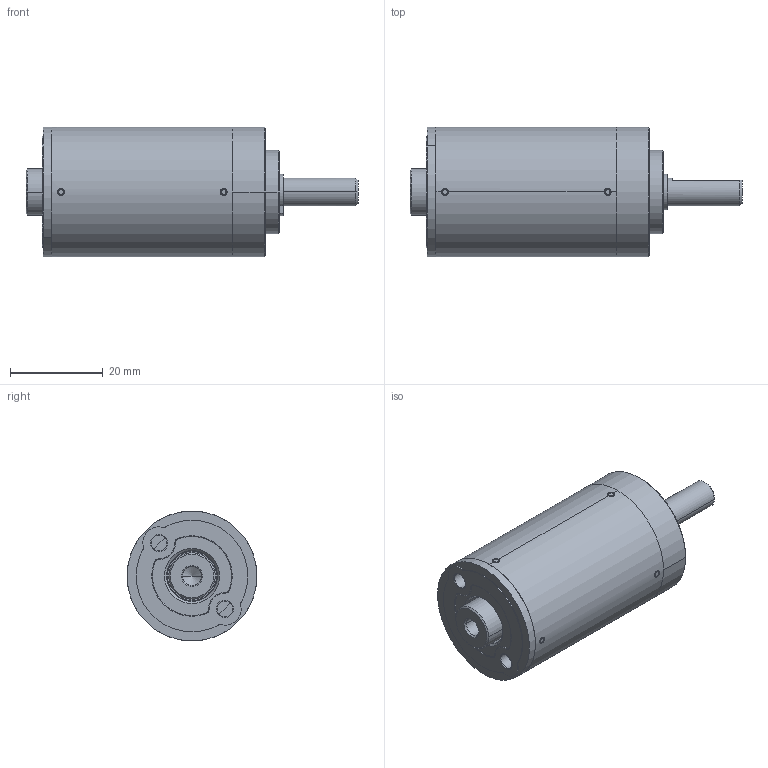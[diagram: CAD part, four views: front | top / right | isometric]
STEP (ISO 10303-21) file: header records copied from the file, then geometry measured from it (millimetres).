
FILE_DESCRIPTION((''),'2;1');
FILE_NAME('IMS28_PRO_MAX_LN_3_STAGE_ASM','2023-07-27T10:52:24',('mhummel'),(''),'CREO PARAMETRIC BY PTC INC, 2020184','CREO PARAMETRIC BY PTC INC, 2020184','');
FILE_SCHEMA(('AUTOMOTIVE_DESIGN { 1 0 10303 214 1 1 1 1 }'));
Length unit declared in the file: millimetre
Products named in the file (13): IMS28_PRO_MAX_LN_BEARING_FLANGE; IMS28_PRO_MAX_LN_BALL_BEARING; IMS28_PRO_MAX_LN_RINGGEAR3STAGE; IMS28_PRO_MAX_LN_MOTOR_FLANGE; IMS28_PRO_MAX_LN_SHAFT_RAW_AF0; IMS28_PRO_MAX_LN_SHAFT_ASM; IMS28_PRO_MAX_LN_SHIM_RING; IMS28_PRO_MAX_LN_RETAINING_RING; IMS28_PRO_MAX_LN_THRUST_WASHER; IMS28_PRO_MAX_LN_CYLINDER_PIN; IMS28_PRO_MAX_LN_MO_PINION_LONG; IMS28_PRO_MAX_LN_MOPINION_SHORT; IMS28_PRO_MAX_LN_3_STAGE_ASM
Assembly tree (20 placements, depth 3):
  IMS28_PRO_MAX_LN_3_STAGE_ASM
    IMS28_PRO_MAX_LN_BEARING_FLANGE
    IMS28_PRO_MAX_LN_BALL_BEARING  x2
    IMS28_PRO_MAX_LN_RINGGEAR3STAGE
    IMS28_PRO_MAX_LN_MOTOR_FLANGE
    IMS28_PRO_MAX_LN_SHAFT_ASM
      IMS28_PRO_MAX_LN_SHAFT_RAW_AF0
    IMS28_PRO_MAX_LN_SHIM_RING
    IMS28_PRO_MAX_LN_RETAINING_RING
    IMS28_PRO_MAX_LN_THRUST_WASHER
    IMS28_PRO_MAX_LN_CYLINDER_PIN  x8
    IMS28_PRO_MAX_LN_MO_PINION_LONG
    IMS28_PRO_MAX_LN_MOPINION_SHORT
Bounding box: 71.4 x 27.95 x 27.95 mm (x, y, z)
Volume: 20579.1 mm3; surface area: 17206 mm2
Topology: 23 solids, 25 shells, 404 faces, 894 edges, 539 vertices
Faces by surface type: cylinder 180, plane 82, torus 70, cone 40, revolution 32
Entity records: 12600 total; most frequent: CARTESIAN_POINT 2061, DIRECTION 1768, ORIENTED_EDGE 1428, AXIS2_PLACEMENT_3D 758, PRESENTATION_STYLE_ASSIGNMENT 745, STYLED_ITEM 741, CURVE_STYLE 714, EDGE_CURVE 714
